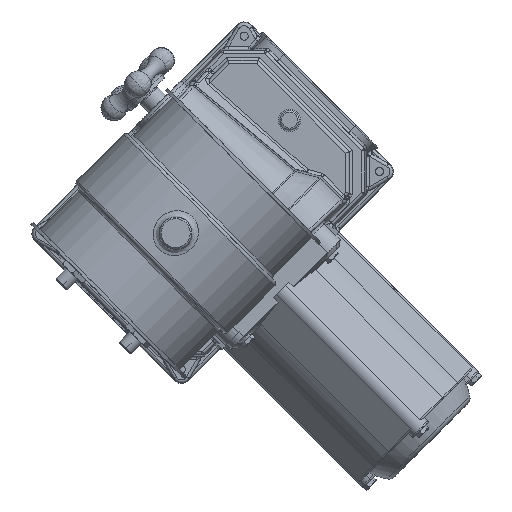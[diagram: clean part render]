
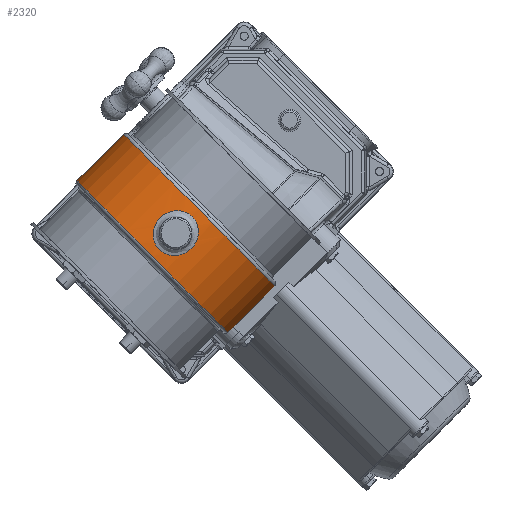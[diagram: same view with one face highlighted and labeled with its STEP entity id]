
A CAD part, top view. The second image highlights one B-rep face of the part: STEP entity #2320.
In plain terms, the highlighted cylindrical face has radius 66.5 mm (diameter 133 mm), a full revolution.
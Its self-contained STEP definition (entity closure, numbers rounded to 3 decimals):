
#1442=CARTESIAN_POINT('',(-75.545,65.309,-65.));
#1443=VERTEX_POINT('',#1442);
#1444=CARTESIAN_POINT('',(-75.545,54.773,-65.));
#1445=VERTEX_POINT('',#1444);
#1446=CARTESIAN_POINT('',(-75.545,65.309,-65.0));
#1447=DIRECTION('',(0.0,-1.0,0.0));
#1448=VECTOR('',#1447,10.536);
#1449=LINE('',#1446,#1448);
#1450=EDGE_CURVE('',#1443,#1445,#1449,.T.);
#1467=CARTESIAN_POINT('',(-47.455,54.773,-65.));
#1468=VERTEX_POINT('',#1467);
#1469=CARTESIAN_POINT('',(-47.455,65.309,-65.0));
#1470=VERTEX_POINT('',#1469);
#1471=CARTESIAN_POINT('',(-47.455,54.773,-65.0));
#1472=DIRECTION('',(0.0,1.0,0.0));
#1473=VECTOR('',#1472,10.536);
#1474=LINE('',#1471,#1473);
#1475=EDGE_CURVE('',#1468,#1470,#1474,.T.);
#1492=CARTESIAN_POINT('',(-47.455,65.309,-65.0));
#1493=CARTESIAN_POINT('',(-47.516,65.47,-65.013));
#1494=CARTESIAN_POINT('',(-47.579,65.631,-65.027));
#1495=CARTESIAN_POINT('',(-48.412,67.637,-65.204));
#1496=CARTESIAN_POINT('',(-49.565,69.319,-65.434));
#1497=CARTESIAN_POINT('',(-52.221,71.976,-65.863));
#1498=CARTESIAN_POINT('',(-53.904,73.129,-66.091));
#1499=CARTESIAN_POINT('',(-56.674,74.279,-66.331));
#1500=CARTESIAN_POINT('',(-57.638,74.569,-66.395));
#1501=CARTESIAN_POINT('',(-59.578,74.95,-66.479));
#1502=CARTESIAN_POINT('',(-60.555,75.041,-66.5));
#1503=CARTESIAN_POINT('',(-62.445,75.041,-66.5));
#1504=CARTESIAN_POINT('',(-63.422,74.95,-66.479));
#1505=CARTESIAN_POINT('',(-65.362,74.569,-66.395));
#1506=CARTESIAN_POINT('',(-66.326,74.279,-66.331));
#1507=CARTESIAN_POINT('',(-69.096,73.129,-66.091));
#1508=CARTESIAN_POINT('',(-70.779,71.976,-65.863));
#1509=CARTESIAN_POINT('',(-73.435,69.319,-65.434));
#1510=CARTESIAN_POINT('',(-74.588,67.637,-65.204));
#1511=CARTESIAN_POINT('',(-75.421,65.631,-65.027));
#1512=CARTESIAN_POINT('',(-75.484,65.47,-65.013));
#1513=CARTESIAN_POINT('',(-75.545,65.309,-65.0));
#1514=B_SPLINE_CURVE_WITH_KNOTS('',3,(#1492,#1493,#1494,#1495,#1496,#1497,#1498,#1499,#1500,#1501,#1502,#1503,#1504,#1505,#1506,#1507,#1508,#1509,#1510,#1511,#1512,#1513),.UNSPECIFIED.,.F.,.U.,(4,2,2,2,2,2,2,2,2,2,4),(5.055,5.104,5.671,6.239,6.522,6.806,7.089,7.373,7.94,8.507,8.556),.UNSPECIFIED.);
#1515=EDGE_CURVE('',#1470,#1443,#1514,.T.);
#1518=CARTESIAN_POINT('',(-75.545,54.773,-65.0));
#1519=CARTESIAN_POINT('',(-75.484,54.612,-65.013));
#1520=CARTESIAN_POINT('',(-75.421,54.451,-65.027));
#1521=CARTESIAN_POINT('',(-74.588,52.445,-65.204));
#1522=CARTESIAN_POINT('',(-73.435,50.763,-65.434));
#1523=CARTESIAN_POINT('',(-70.779,48.106,-65.863));
#1524=CARTESIAN_POINT('',(-69.096,46.953,-66.091));
#1525=CARTESIAN_POINT('',(-66.326,45.803,-66.331));
#1526=CARTESIAN_POINT('',(-65.362,45.513,-66.395));
#1527=CARTESIAN_POINT('',(-63.422,45.132,-66.479));
#1528=CARTESIAN_POINT('',(-62.445,45.041,-66.5));
#1529=CARTESIAN_POINT('',(-60.555,45.041,-66.5));
#1530=CARTESIAN_POINT('',(-59.578,45.132,-66.479));
#1531=CARTESIAN_POINT('',(-57.638,45.513,-66.395));
#1532=CARTESIAN_POINT('',(-56.674,45.803,-66.331));
#1533=CARTESIAN_POINT('',(-53.904,46.953,-66.091));
#1534=CARTESIAN_POINT('',(-52.221,48.106,-65.863));
#1535=CARTESIAN_POINT('',(-49.565,50.763,-65.434));
#1536=CARTESIAN_POINT('',(-48.412,52.445,-65.204));
#1537=CARTESIAN_POINT('',(-47.579,54.451,-65.027));
#1538=CARTESIAN_POINT('',(-47.516,54.612,-65.013));
#1539=CARTESIAN_POINT('',(-47.455,54.773,-65.0));
#1540=B_SPLINE_CURVE_WITH_KNOTS('',3,(#1518,#1519,#1520,#1521,#1522,#1523,#1524,#1525,#1526,#1527,#1528,#1529,#1530,#1531,#1532,#1533,#1534,#1535,#1536,#1537,#1538,#1539),.UNSPECIFIED.,.F.,.U.,(4,2,2,2,2,2,2,2,2,2,4),(0.518,0.567,1.134,1.701,1.985,2.269,2.552,2.836,3.403,3.97,4.019),.UNSPECIFIED.);
#1541=EDGE_CURVE('',#1445,#1468,#1540,.T.);
#2246=CARTESIAN_POINT('',(-75.081,60.041,65.098));
#2247=VERTEX_POINT('',#2246);
#2257=CARTESIAN_POINT('',(-75.081,60.041,65.098));
#2258=CARTESIAN_POINT('',(-75.081,60.04,65.098));
#2259=CARTESIAN_POINT('',(-75.081,60.039,65.098));
#2260=CARTESIAN_POINT('',(-75.081,60.038,65.098));
#2261=CARTESIAN_POINT('',(-75.081,57.876,65.098));
#2262=CARTESIAN_POINT('',(-74.158,53.552,65.301));
#2263=CARTESIAN_POINT('',(-70.273,48.335,65.98));
#2264=CARTESIAN_POINT('',(-64.666,45.431,66.52));
#2265=CARTESIAN_POINT('',(-58.372,45.418,66.52));
#2266=CARTESIAN_POINT('',(-52.758,48.317,65.986));
#2267=CARTESIAN_POINT('',(-48.416,54.081,65.223));
#2268=CARTESIAN_POINT('',(-47.456,60.826,64.996));
#2269=CARTESIAN_POINT('',(-49.483,67.838,65.426));
#2270=CARTESIAN_POINT('',(-53.313,72.239,66.071));
#2271=CARTESIAN_POINT('',(-59.055,74.658,66.522));
#2272=CARTESIAN_POINT('',(-64.629,74.659,66.521));
#2273=CARTESIAN_POINT('',(-70.258,71.762,65.981));
#2274=CARTESIAN_POINT('',(-73.498,67.421,65.417));
#2275=CARTESIAN_POINT('',(-74.848,63.31,65.148));
#2276=CARTESIAN_POINT('',(-75.081,61.121,65.098));
#2277=CARTESIAN_POINT('',(-75.081,60.041,65.098));
#2278=B_SPLINE_CURVE_WITH_KNOTS('',3,(#2257,#2258,#2259,#2260,#2261,#2262,#2263,#2264,#2265,#2266,#2267,#2268,#2269,#2270,#2271,#2272,#2273,#2274,#2275,#2276,#2277),.UNSPECIFIED.,.T.,.U.,(4,3,1,1,1,1,1,1,1,1,1,1,1,1,1,1,4),(-6.037,-6.037,-5.606,-5.174,-4.743,-4.312,-3.881,-3.45,-2.875,-2.587,-2.012,-1.725,-1.294,-0.862,-0.431,-0.216,0.),.UNSPECIFIED.);
#2279=EDGE_CURVE('',#2247,#2247,#2278,.T.);
#2284=CARTESIAN_POINT('',(-61.5,60.041,0.0));
#2285=DIRECTION('',(0.,-1.0,0.0));
#2286=DIRECTION('',(1.0,0.0,0.0));
#2287=AXIS2_PLACEMENT_3D('',#2284,#2285,#2286);
#2288=CYLINDRICAL_SURFACE('',#2287,66.5);
#2289=CARTESIAN_POINT('',(5.,80.541,0.0));
#2290=VERTEX_POINT('',#2289);
#2291=CARTESIAN_POINT('',(-61.5,80.541,0.0));
#2292=DIRECTION('',(0.0,-1.0,0.0));
#2293=DIRECTION('',(1.0,0.0,0.0));
#2294=AXIS2_PLACEMENT_3D('',#2291,#2292,#2293);
#2295=CIRCLE('',#2294,66.5);
#2296=EDGE_CURVE('',#2290,#2290,#2295,.T.);
#2297=ORIENTED_EDGE('',*,*,#2296,.T.);
#2298=EDGE_LOOP('',(#2297));
#2299=FACE_OUTER_BOUND('',#2298,.T.);
#2300=ORIENTED_EDGE('',*,*,#1541,.T.);
#2301=ORIENTED_EDGE('',*,*,#1475,.T.);
#2302=ORIENTED_EDGE('',*,*,#1515,.T.);
#2303=ORIENTED_EDGE('',*,*,#1450,.T.);
#2304=EDGE_LOOP('',(#2300,#2301,#2302,#2303));
#2305=FACE_BOUND('',#2304,.T.);
#2306=CARTESIAN_POINT('',(5.,39.541,0.0));
#2307=VERTEX_POINT('',#2306);
#2308=CARTESIAN_POINT('',(-61.5,39.541,0.0));
#2309=DIRECTION('',(0.0,-1.0,0.0));
#2310=DIRECTION('',(1.0,0.0,0.0));
#2311=AXIS2_PLACEMENT_3D('',#2308,#2309,#2310);
#2312=CIRCLE('',#2311,66.5);
#2313=EDGE_CURVE('',#2307,#2307,#2312,.T.);
#2314=ORIENTED_EDGE('',*,*,#2313,.F.);
#2315=EDGE_LOOP('',(#2314));
#2316=FACE_BOUND('',#2315,.T.);
#2317=ORIENTED_EDGE('',*,*,#2279,.F.);
#2318=EDGE_LOOP('',(#2317));
#2319=FACE_BOUND('',#2318,.T.);
#2320=ADVANCED_FACE('',(#2299,#2305,#2316,#2319),#2288,.T.);
